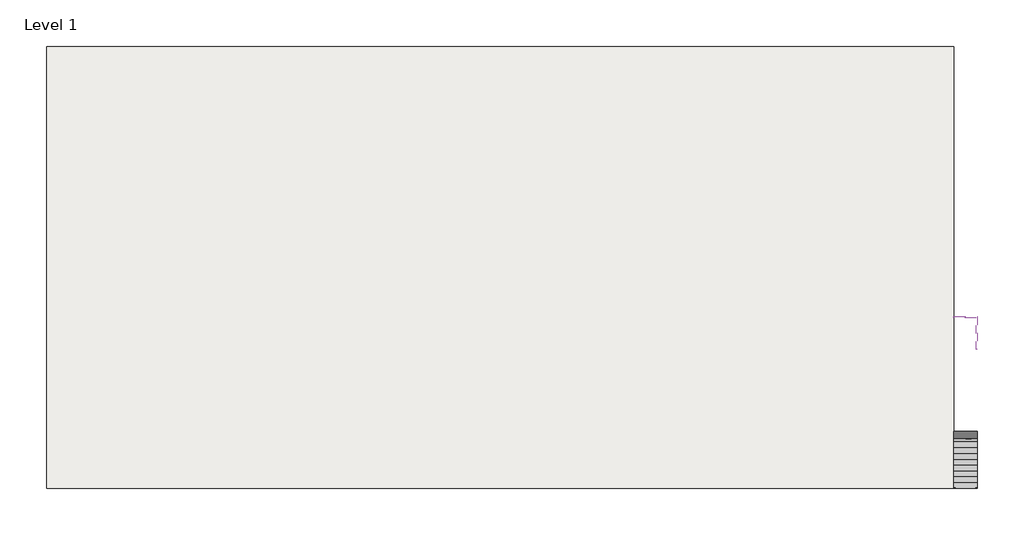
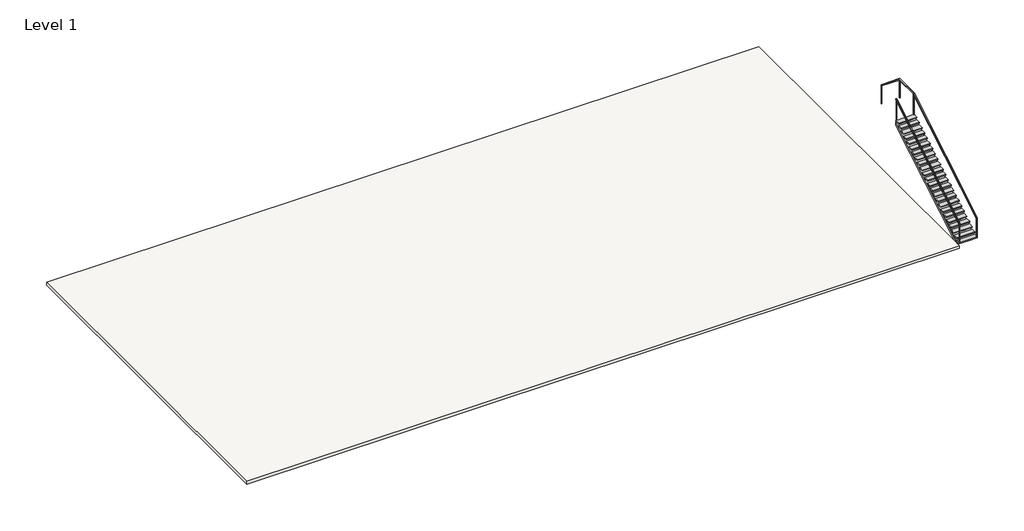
# One storey: 3 railings, 2 proxies, 1 slab, 1 stair flight.
"""IFC4 building model written with IfcOpenShell, lengths in millimetres."""

from ifc_helpers import new_model, si_unit, frame, origin, place, context, project, spatial, polyline, outline, extrude, faceted_brep, transform, mapped, element, save
from components import stair_stair_a09dc415, stair_support_stair_support_e1d7b737, stair_flight_50mm_tread_13mm_riser_10520530

model = new_model("IFC4")

# Units and contexts
model_context = context("Model", 3, world=origin())
ifc_project = project(units=[si_unit("LENGTHUNIT", "METRE", prefix="MILLI")], contexts=[model_context])

# Site, building, storey
site = spatial("IfcSite", under=ifc_project)
building = spatial("IfcBuilding", under=site)
storey = spatial("IfcBuildingStorey", under=building, Name="Level 1", Elevation=0.0)

# Proxies
placement = place(None, origin())
stair_stair_shape = stair_stair_a09dc415(model_context)
element("IfcBuildingElementProxy", 1, Name="Stair : Stair", ObjectType="Stair : Stair", at=placement, inside=storey, context=model_context, shape_type="MappedRepresentation", body=[
    mapped(stair_stair_shape, transform((0.0, 0.0, 0.0), x_axis=(1.0, 0.0, 0.0), y_axis=(0.0, 1.0, 0.0), z_axis=(0.0, 0.0, 1.0))),
])
stair_support_stair_support_shape = stair_support_stair_support_e1d7b737(model_context)
element("IfcBuildingElementProxy", 2, Name="Stair Support : Stair Support", ObjectType="Stair Support : Stair Support", at=placement, inside=storey, context=model_context, shape_type="MappedRepresentation", body=[
    mapped(stair_support_stair_support_shape, transform((0.0, 0.0, 0.0), x_axis=(1.0, 0.0, 0.0), y_axis=(0.0, 1.0, 0.0), z_axis=(0.0, 0.0, 1.0))),
])

# Railings
element("IfcRailing", 3, ObjectType="1100mm", at=placement, inside=storey, context=model_context, shape_type="SweptSolid", body=[
    extrude(outline(polyline([(-12354.2233484, 1191.6904811), (-12354.2233484, 1250.0), (-6354.2233484, 4850.0), (-6354.2233484, 4791.6904811), (-12354.2233484, 1191.6904811)])), frame((20031.5375783, 0.0, 0.0), z_axis=(1.0, 0.0, 0.0), x_axis=(0.0, 1.0, 0.0)), (0.0, 0.0, 1.0), 50.0),
    extrude(outline(polyline([(-6379.2233484, 3600.0), (-6379.2233484, 4776.6904811), (-6354.2233484, 4791.6904811), (-6354.2233484, 3600.0), (-6379.2233484, 3600.0)])), frame((20044.0375783, 0.0, 0.0), z_axis=(1.0, 0.0, 0.0), x_axis=(0.0, 1.0, 0.0)), (0.0, 0.0, 1.0), 25.0),
    extrude(outline(polyline([(-12354.2233484, 150.0), (-12354.2233484, 1191.6904811), (-12329.2233484, 1206.6904811), (-12329.2233484, 150.0), (-12354.2233484, 150.0)])), frame((20044.0375783, 0.0, 0.0), z_axis=(1.0, 0.0, 0.0), x_axis=(0.0, 1.0, 0.0)), (0.0, 0.0, 1.0), 25.0),
])
element("IfcRailing", 4, ObjectType="1100mm", at=placement, inside=storey, context=model_context, shape_type="SweptSolid", body=[
    extrude(outline(polyline([(-12354.2233484, 1191.6904811), (-12354.2233484, 1250.0), (-6354.2233484, 4850.0), (-6354.2233484, 4791.6904811), (-12354.2233484, 1191.6904811)])), frame((19082.3375783, 0.0, 0.0), z_axis=(1.0, 0.0, 0.0), x_axis=(0.0, 1.0, 0.0)), (0.0, 0.0, 1.0), 50.0),
    extrude(outline(polyline([(-6379.2233484, 4776.6904811), (-6354.2233484, 4791.6904811), (-6354.2233484, 3600.0), (-6379.2233484, 3600.0), (-6379.2233484, 4776.6904811)])), frame((19094.8375783, 0.0, 0.0), z_axis=(1.0, 0.0, 0.0), x_axis=(0.0, 1.0, 0.0)), (0.0, 0.0, 1.0), 25.0),
    extrude(outline(polyline([(-12354.2233484, 1191.6904811), (-12329.2233484, 1206.6904811), (-12329.2233484, 150.0), (-12354.2233484, 150.0), (-12354.2233484, 1191.6904811)])), frame((19094.8375783, 0.0, 0.0), z_axis=(1.0, 0.0, 0.0), x_axis=(0.0, 1.0, 0.0)), (0.0, 0.0, 1.0), 25.0),
])
element("IfcRailing", 5, ObjectType="1100mm", at=placement, inside=storey, context=model_context, shape_type="SolidModel", body=[
    faceted_brep([(20044.4375783, -6379.2233484, 4850.0), (20044.4375783, -6379.2233484, 4800.0), (20094.4375783, -6379.2233484, 4800.0), (20094.4375783, -6379.2233484, 4850.0), (20044.4375783, -5023.2952989, 4850.0), (20044.4375783, -5023.2952989, 4800.0), (20094.4375783, -4973.2952989, 4800.0), (20094.4375783, -4973.2952989, 4850.0), (19069.4375783, -5023.2952989, 4850.0), (19069.4375783, -4973.2952989, 4850.0), (19069.4375783, -4973.2952989, 4800.0), (19069.4375783, -5023.2952989, 4800.0)], [[[0, 1, 2, 3]], [[1, 0, 4, 5]], [[2, 1, 5, 6]], [[3, 2, 6, 7]], [[0, 3, 7, 4]], [[8, 9, 10, 11]], [[5, 4, 8, 11]], [[6, 5, 11, 10]], [[7, 6, 10, 9]], [[4, 7, 9, 8]]]),
    extrude(outline(polyline([(20081.9375783, -5010.7952989), (20056.9375783, -5010.7952989), (20056.9375783, -4985.7952989), (20081.9375783, -4985.7952989), (20081.9375783, -5010.7952989)])), frame((0.0, 0.0, 3750.0), z_axis=(0.0, 0.0, 1.0), x_axis=(1.0, 0.0, 0.0)), (0.0, 0.0, 1.0), 1050.0),
    extrude(outline(polyline([(19094.4375783, -4985.7952989), (19094.4375783, -5010.7952989), (19069.4375783, -5010.7952989), (19069.4375783, -4985.7952989), (19094.4375783, -4985.7952989)])), frame((0.0, 0.0, 3750.0), z_axis=(0.0, 0.0, 1.0), x_axis=(1.0, 0.0, 0.0)), (0.0, 0.0, 1.0), 1050.0),
    extrude(outline(polyline([(20081.9375783, -6379.2233484), (20056.9375783, -6379.2233484), (20056.9375783, -6354.2233484), (20081.9375783, -6354.2233484), (20081.9375783, -6379.2233484)])), frame((0.0, 0.0, 3750.0), z_axis=(0.0, 0.0, 1.0), x_axis=(1.0, 0.0, 0.0)), (0.0, 0.0, 1.0), 1050.0),
])

# Slab
element("IfcSlab", 6, ObjectType="Generic 150mm", at=placement, inside=storey, context=model_context, shape_type="SweptSolid", body=[
    extrude(outline(polyline([(-19918.0624217, 6645.7766516), (19081.9375783, 6645.7766516), (19081.9375783, -12354.2233484), (-19918.0624217, -12354.2233484), (-19918.0624217, 6645.7766516)])), frame((0.0, 0.0, -150.0), z_axis=(0.0, 0.0, 1.0), x_axis=(1.0, 0.0, 0.0)), (0.0, 0.0, 1.0), 150.0),
])

# Stair flight
stair_flight_50mm_tread_13mm_riser_shape = stair_flight_50mm_tread_13mm_riser_10520530(model_context)
element("IfcStairFlight", 7, ObjectType="50mm Tread 13mm Riser", at=placement, inside=storey, context=model_context, shape_type="MappedRepresentation", body=[
    mapped(stair_flight_50mm_tread_13mm_riser_shape, transform((0.0, 0.0, 0.0), x_axis=(1.0, 0.0, 0.0), y_axis=(0.0, 1.0, 0.0), z_axis=(0.0, 0.0, 1.0))),
])

save(model, "model.ifc")
